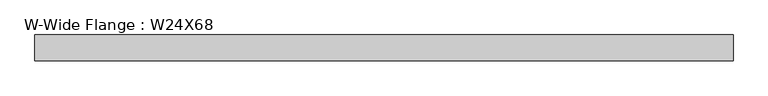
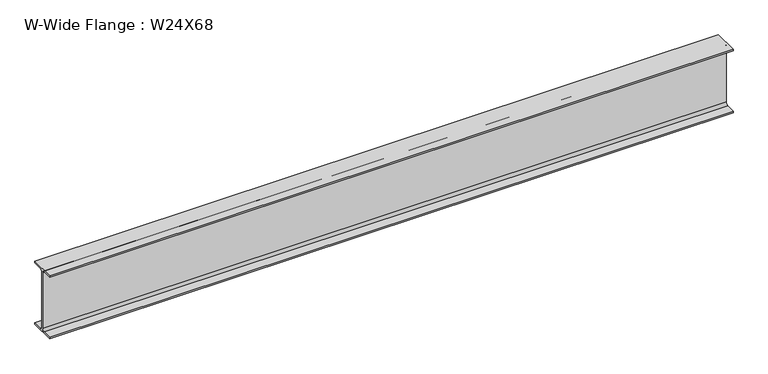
"""IFC4 building model written with IfcOpenShell, lengths in millimetres: beam geometry, W-Wide Flange : W24X68."""

from ifc_helpers import new_model, si_unit, point, frame, frame_2d, origin, place, context, project, spatial, polyline, circle_curve, trimmed, segment, composite_curve, outline, extrude, source, transform, mapped, element, save


def w_wide_flange_w24x68_792546f8(model_context):
    return source(origin(), model_context, "Body", "SweptSolid", [
        extrude(outline(composite_curve([segment(polyline([(113.919, -286.131), (113.919, -300.99), (-113.919, -300.99), (-113.919, -286.131), (-28.5115, -286.131)]), True, "CONTINUOUS"), segment(trimmed(circle_curve(frame_2d((-28.5115, -262.89)), 23.241), [point((-28.5115, -286.131))], [point((-5.2705, -262.89))], True, "CARTESIAN"), True, "CONTINUOUS"), segment(polyline([(-5.2705, -262.89), (-5.2705, 262.89)]), True, "CONTINUOUS"), segment(trimmed(circle_curve(frame_2d((-28.5115, 262.89)), 23.241), [point((-5.2705, 262.89))], [point((-28.5115, 286.131))], True, "CARTESIAN"), True, "CONTINUOUS"), segment(polyline([(-28.5115, 286.131), (-113.919, 286.131), (-113.919, 300.99), (113.919, 300.99), (113.919, 286.131), (28.5115, 286.131)]), True, "CONTINUOUS"), segment(trimmed(circle_curve(frame_2d((28.5115, 262.89)), 23.241), [point((28.5115, 286.131))], [point((5.2705, 262.89))], True, "CARTESIAN"), True, "CONTINUOUS"), segment(polyline([(5.2705, 262.89), (5.2705, -262.89)]), True, "CONTINUOUS"), segment(trimmed(circle_curve(frame_2d((28.5115, -262.89)), 23.241), [point((5.2705, -262.89))], [point((28.5115, -286.131))], True, "CARTESIAN"), True, "CONTINUOUS"), segment(polyline([(28.5115, -286.131), (113.919, -286.131)]), True, "CONTINUOUS")], self_intersect=False)), frame((-3087.6875, 0.0, 0.0), z_axis=(1.0, 0.0, 0.0), x_axis=(0.0, 1.0, 0.0)), (0.0, 0.0, 1.0), 6158.2935),
    ])


if __name__ == "__main__":
    model = new_model("IFC4")
    model_context = context("Model", 3, world=origin())
    ifc_project = project(units=[si_unit("LENGTHUNIT", "METRE", prefix="MILLI")], contexts=[model_context])
    site = spatial("IfcSite", under=ifc_project)
    building = spatial("IfcBuilding", under=site)
    placement = place(None, origin())
    w_wide_flange_w24x68_shape = w_wide_flange_w24x68_792546f8(model_context)
    element("IfcBeam", 1, ObjectType="W-Wide Flange : W24X68", at=placement, inside=building, context=model_context, shape_type="MappedRepresentation", body=[
        mapped(w_wide_flange_w24x68_shape, transform((0.0, 0.0, 0.0), x_axis=(1.0, 0.0, 0.0), y_axis=(0.0, 1.0, 0.0), z_axis=(0.0, 0.0, 1.0))),
    ])
    save(model, "model.ifc")
